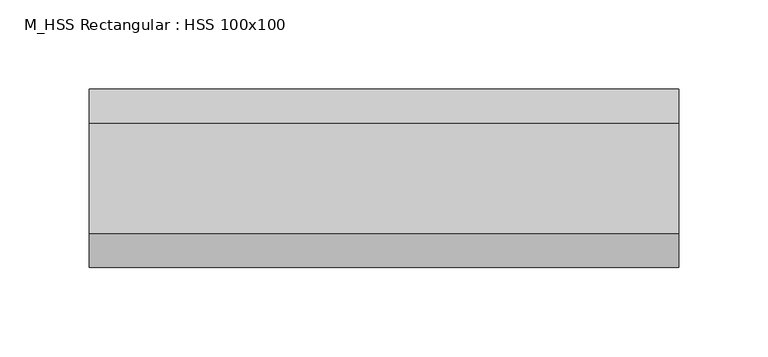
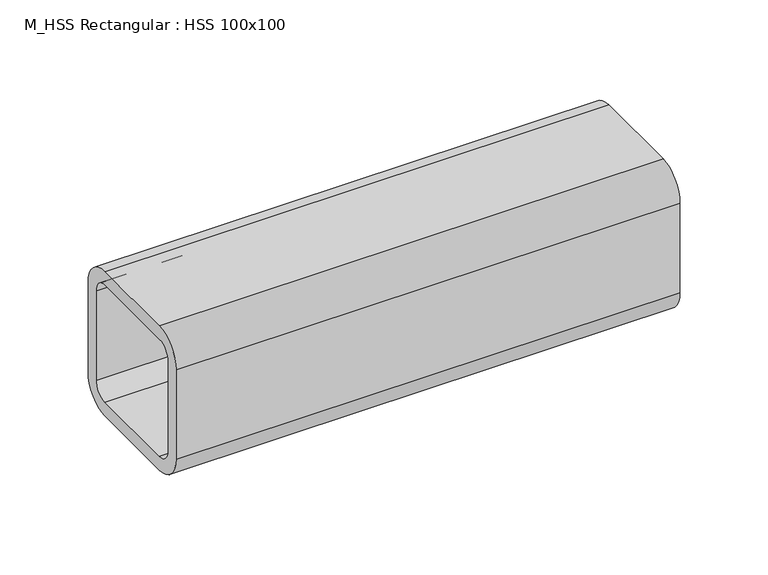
"""IFC4 building model written with IfcOpenShell, lengths in millimetres: beam geometry, M_HSS Rectangular : HSS 100x100."""

from ifc_helpers import new_model, si_unit, point, frame, frame_2d, origin, place, context, project, spatial, polyline, circle_curve, trimmed, segment, composite_curve, outline, extrude, source, transform, mapped, element, save


def m_hss_rectangular_hss_100x100_6975e544(model_context):
    return source(origin(), model_context, "Body", "SweptSolid", [
        extrude(outline(composite_curve([segment(polyline([(50.0, 30.94), (50.0, -30.94)]), True, "CONTINUOUS"), segment(trimmed(circle_curve(frame_2d((30.94, -30.94)), 19.06), [point((50.0, -30.94))], [point((30.94, -50.0))], False, "CARTESIAN"), True, "CONTINUOUS"), segment(polyline([(30.94, -50.0), (-30.94, -50.0)]), True, "CONTINUOUS"), segment(trimmed(circle_curve(frame_2d((-30.94, -30.94)), 19.06), [point((-30.94, -50.0))], [point((-50.0, -30.94))], False, "CARTESIAN"), True, "CONTINUOUS"), segment(polyline([(-50.0, -30.94), (-50.0, 30.94)]), True, "CONTINUOUS"), segment(trimmed(circle_curve(frame_2d((-30.94, 30.94)), 19.06), [point((-50.0, 30.94))], [point((-30.94, 50.0))], False, "CARTESIAN"), True, "CONTINUOUS"), segment(polyline([(-30.94, 50.0), (30.94, 50.0)]), True, "CONTINUOUS"), segment(trimmed(circle_curve(frame_2d((30.94, 30.94)), 19.06), [point((30.94, 50.0))], [point((50.0, 30.94))], False, "CARTESIAN"), True, "CONTINUOUS")], self_intersect=False), holes=[composite_curve([segment(trimmed(circle_curve(frame_2d((-30.94, 30.94)), 9.53), [point((-30.94, 40.47))], [point((-40.47, 30.94))], True, "CARTESIAN"), True, "CONTINUOUS"), segment(polyline([(-40.47, 30.94), (-40.47, -30.94)]), True, "CONTINUOUS"), segment(trimmed(circle_curve(frame_2d((-30.94, -30.94)), 9.53), [point((-40.47, -30.94))], [point((-30.94, -40.47))], True, "CARTESIAN"), True, "CONTINUOUS"), segment(polyline([(-30.94, -40.47), (30.94, -40.47)]), True, "CONTINUOUS"), segment(trimmed(circle_curve(frame_2d((30.94, -30.94)), 9.53), [point((30.94, -40.47))], [point((40.47, -30.94))], True, "CARTESIAN"), True, "CONTINUOUS"), segment(polyline([(40.47, -30.94), (40.47, 30.94)]), True, "CONTINUOUS"), segment(trimmed(circle_curve(frame_2d((30.94, 30.94)), 9.53), [point((40.47, 30.94))], [point((30.94, 40.47))], True, "CARTESIAN"), True, "CONTINUOUS"), segment(polyline([(30.94, 40.47), (-30.94, 40.47)]), True, "CONTINUOUS")], self_intersect=False)]), frame((-165.0, 0.0, 0.0), z_axis=(1.0, 0.0, 0.0), x_axis=(0.0, 1.0, 0.0)), (0.0, 0.0, 1.0), 330.0),
    ])


if __name__ == "__main__":
    model = new_model("IFC4")
    model_context = context("Model", 3, world=origin())
    ifc_project = project(units=[si_unit("LENGTHUNIT", "METRE", prefix="MILLI")], contexts=[model_context])
    site = spatial("IfcSite", under=ifc_project)
    building = spatial("IfcBuilding", under=site)
    placement = place(None, origin())
    m_hss_rectangular_hss_100x100_shape = m_hss_rectangular_hss_100x100_6975e544(model_context)
    element("IfcBeam", 1, ObjectType="M_HSS Rectangular : HSS 100x100", at=placement, inside=building, context=model_context, shape_type="MappedRepresentation", body=[
        mapped(m_hss_rectangular_hss_100x100_shape, transform((0.0, 0.0, 0.0), x_axis=(1.0, 0.0, 0.0), y_axis=(0.0, 1.0, 0.0), z_axis=(0.0, 0.0, 1.0))),
    ])
    save(model, "model.ifc")
